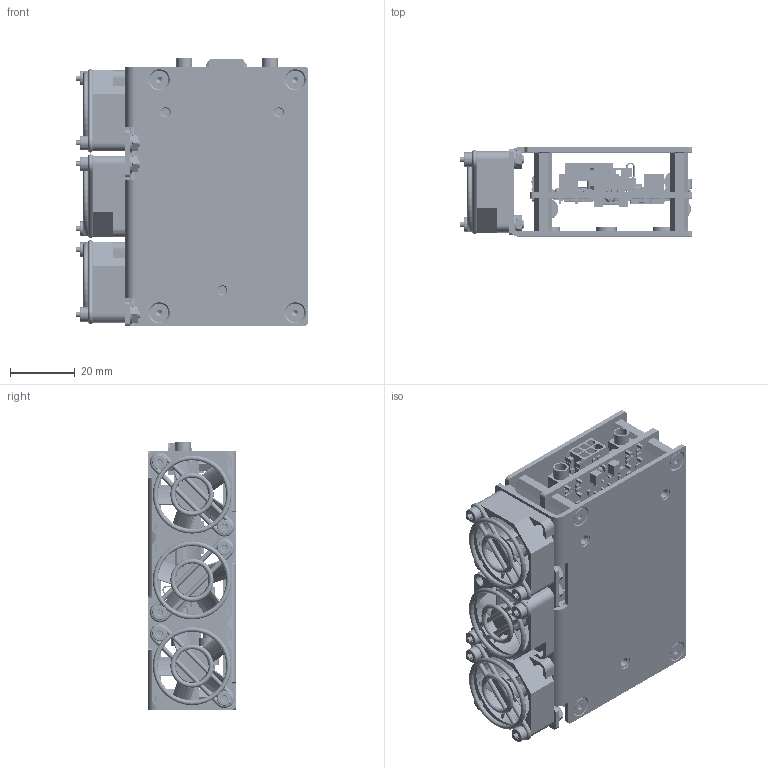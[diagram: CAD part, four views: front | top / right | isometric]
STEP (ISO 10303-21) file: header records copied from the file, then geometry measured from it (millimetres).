
FILE_DESCRIPTION (( 'STEP AP214' ), '1' );
FILE_NAME ('424.00.90.000-A01_QBY.STEP', '2023-06-03T08:30:53', ( '' ), ( '' ), 'SwSTEP 2.0', 'SolidWorks 2018', '' );
FILE_SCHEMA (( 'AUTOMOTIVE_DESIGN' ));
Length unit declared in the file: millimetre
Products named in the file (13): 栺鍣罻 PCHSN-10; 424.00.90.101-A01_ﾊ鮻; 妈眚 󉱲 DIN7991; 栺鍣罻 PCHSS-12; 424.00.90.100-A01_Êîæóõ â ñáîðå; Âèíò Ì2,5õ16 DIN912; Âåíòèëÿòîð Sunon MF25101V2; ﾘ琺矜 ﾌ2,5 DIN125; Ðåøåòêà âåíòèëÿòîðà 25x25; Ãàéêà CN clinch nut M3 (2018); 424.00.90.000-A01_QBY; Ãàéêà Ì2,5 DIN934; QBY Rev.A 2mm DA2032
Assembly tree (46 placements, depth 3):
  424.00.90.000-A01_QBY
    424.00.90.100-A01_Êîæóõ â ñáîðå
      424.00.90.101-A01_ﾊ鮻
      Ãàéêà CN clinch nut M3 (2018)  x3
    QBY Rev.A 2mm DA2032
    栺鍣罻 PCHSN-10  x4
    栺鍣罻 PCHSS-12  x4
    妈眚 󉱲 DIN7991  x8
    Âèíò Ì2,5õ16 DIN912  x6
    ﾘ琺矜 ﾌ2,5 DIN125  x6
    Ãàéêà Ì2,5 DIN934  x6
    Âåíòèëÿòîð Sunon MF25101V2  x3
    Ðåøåòêà âåíòèëÿòîðà 25x25  x3
Bounding box: 71.75 x 27.5 x 82.67 mm (x, y, z)
Volume: 25541 mm3; surface area: 57374.3 mm2
Topology: 59 solids, 1814 shells, 7107 faces, 24882 edges, 19501 vertices
Faces by surface type: plane 4664, cylinder 1832, bspline 309, cone 157, torus 85, sphere 60
Entity records: 304787 total; most frequent: CARTESIAN_POINT 55185, DIRECTION 37796, ORIENTED_EDGE 29924, EDGE_CURVE 22614, VECTOR 18180, LINE 18180, VERTEX_POINT 18144, AXIS2_PLACEMENT_3D 9808
